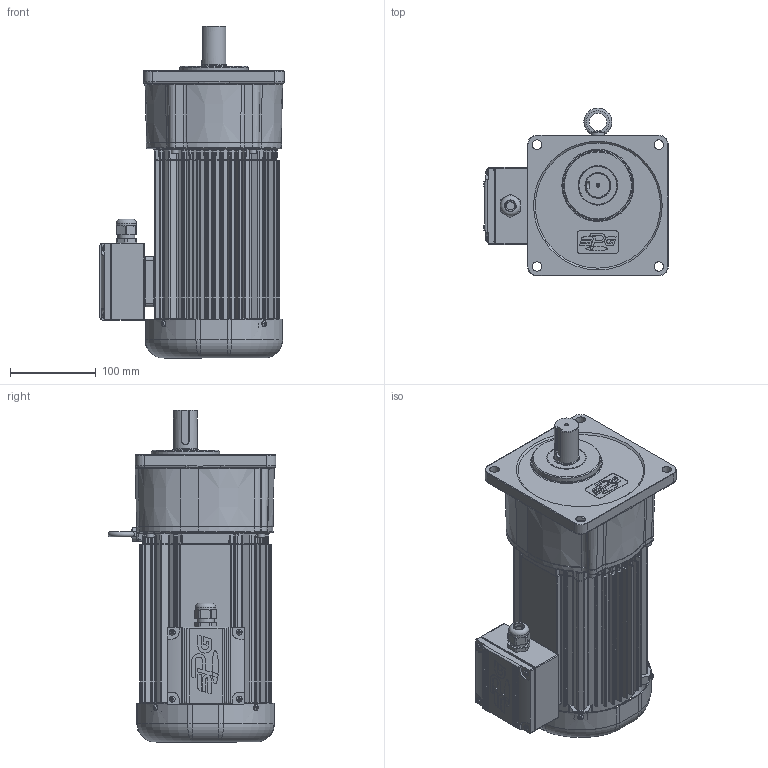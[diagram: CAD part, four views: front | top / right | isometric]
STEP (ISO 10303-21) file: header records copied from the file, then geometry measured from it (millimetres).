
FILE_DESCRIPTION(/* description */ (''),/* implementation_level */ '2;1');
FILE_NAME(/* name */ 'Z:\동력 3D 파일\PAK28_0.75kW_3D.stp',/* time_stamp */ '2021-11-09T08:55:50+09:00',/* author */ ('jaebok'),/* organization */ (''),/* preprocessor_version */ 'ST-DEVELOPER v18.1',/* originating_system */ 'Autodesk Inventor 2022',/* authorisation */ '');
FILE_SCHEMA (('AUTOMOTIVE_DESIGN { 1 0 10303 214 3 1 1 }'));
Products named in the file (1): 부품13
Bounding box: 215 x 195.8 x 387 mm (x, y, z)
Volume: 1937254.7 mm3; surface area: 688616.7 mm2
Topology: 2 solids, 33 shells, 3566 faces, 9005 edges, 5360 vertices
Faces by surface type: plane 1050, cylinder 943, bspline 920, torus 352, cone 177, sphere 124
Full cylindrical faces by diameter (mm): 2 x1, 3.25 x1, 3.5 x4, 3.6 x4, 4 x22, 4.2 x4, 4.917 x4, 5 x20, 5.5 x4, 6 x4, 6.647 x1, 7 x13, 8 x9, 8.5 x4, 10 x1, 12.5 x1, 15 x1, 18 x1, 19 x1, 20 x2, 20.6 x1, 21 x2, 23.6 x1, 25 x1, 27 x1, 28 x2, 29.6 x1, 30 x2, 32 x1, 34 x1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
Entity records: 142264 total; most frequent: CARTESIAN_POINT 58913, ORIENTED_EDGE 17534, DIRECTION 15569, EDGE_CURVE 8767, AXIS2_PLACEMENT_3D 6347, VERTEX_POINT 5362, EDGE_LOOP 3774, FACE_OUTER_BOUND 3566
